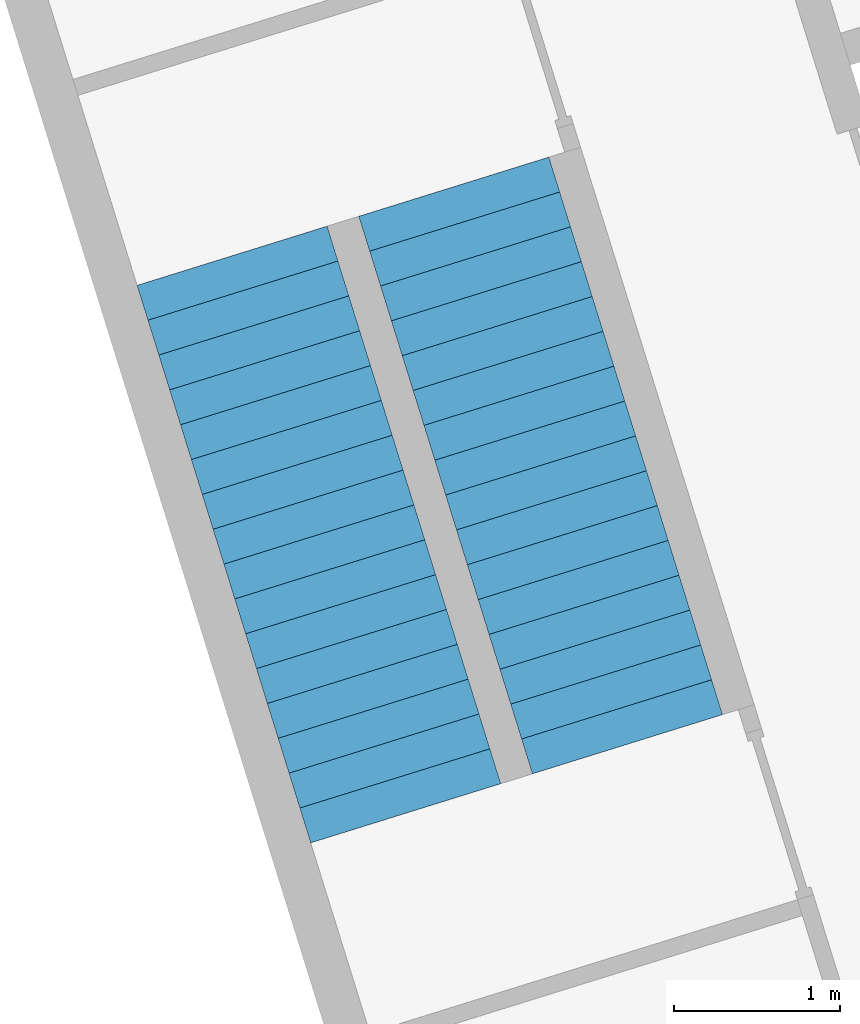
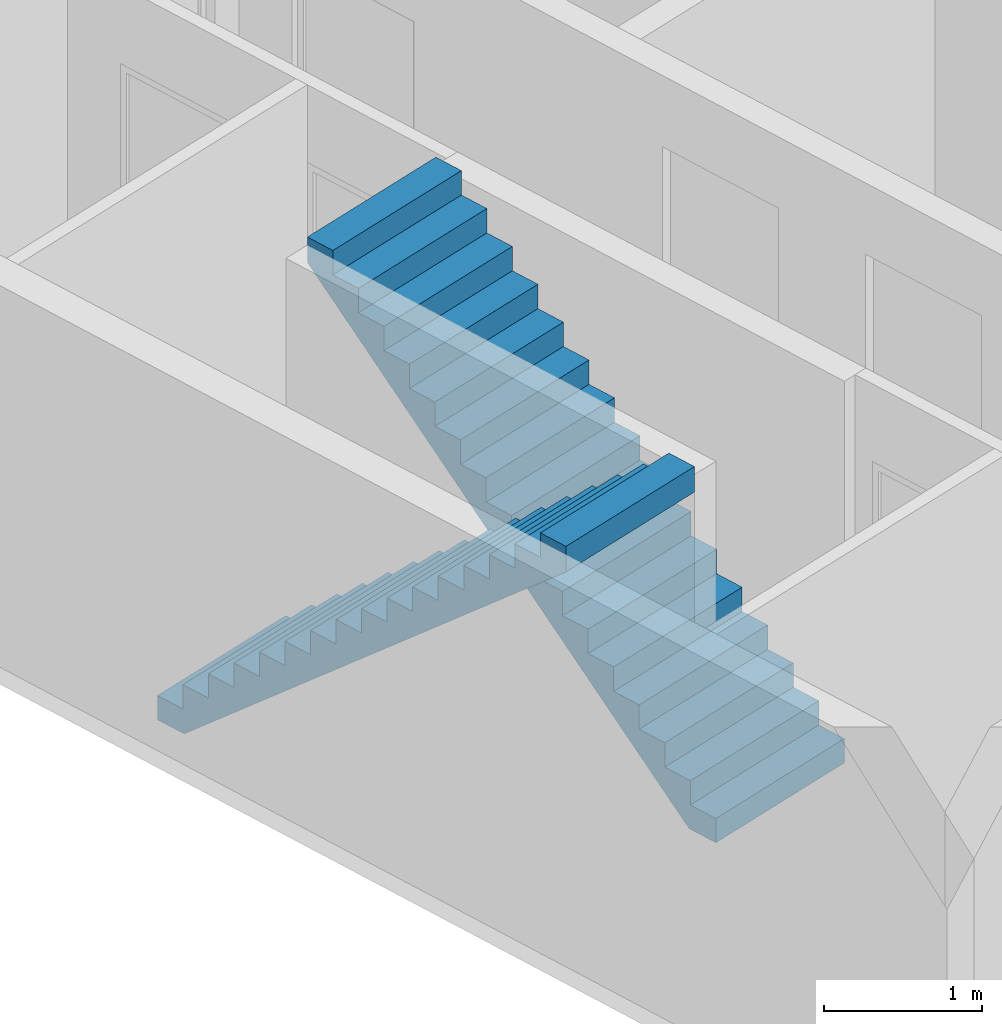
# One storey, part 3 of 3: 2 stair flights, 2 elements without a shape of their own.
"""IFC4 building model written with IfcOpenShell, lengths in metres."""

from ifc_helpers import new_model, entity, si_unit, converted_unit, direction, frame, origin, place, context, subcontext, project, spatial, polygons, material, type_object, element, aggregate, save


model = new_model("IFC4")

# Units and contexts
model_context = context("Model", 3, precision=1e-05, world=origin(), true_north=direction((6.12323399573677e-17, 1.0)))
body_context = subcontext(model_context, "Body", "Model", "MODEL_VIEW")
ifc_project = project(units=[si_unit("LENGTHUNIT", "METRE"), si_unit("AREAUNIT", "SQUARE_METRE"), converted_unit("PLANEANGLEUNIT", "DEGREE", entity("IfcPlaneAngleMeasure", 0.0174532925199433), si_unit("PLANEANGLEUNIT", "RADIAN"), dimensions=[0, 0, 0, 0, 0, 0, 0]), si_unit("VOLUMEUNIT", "CUBIC_METRE")], contexts=[model_context])

# Site, building, storey
site_placement = place(None, frame((13.1347999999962, 11.9886000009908, 0.0), z_axis=(0.0, 0.0, 1.0), x_axis=(0.954770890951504, 0.297342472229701, 0.0)))
site = spatial("IfcSite", under=ifc_project, at=site_placement, Name="Schiehaven", CompositionType="ELEMENT")
building_placement = place(site_placement, origin())
building = spatial("IfcBuilding", under=site, at=building_placement, Name="VORM huis", CompositionType="ELEMENT")
storey_placement = place(building_placement, frame((0.0, 0.0, -3.2)))
storey = spatial("IfcBuildingStorey", under=building, at=storey_placement, Name="-1 kelder", CompositionType="ELEMENT", Elevation=-3.2)

# Stair, stair flight
stair_type = type_object("IfcStairType", Name="Trap", PredefinedType="STRAIGHT_RUN_STAIR")
stair_1_placement = place(storey_placement, origin())
stair_1 = element("IfcStair", 1, at=stair_1_placement, inside=storey, type_object=stair_type, Name="Hoofdtrap", ObjectType="Precast Stair:NLRS_24_STR_reguliere trap-woonfunctie-breedte 1200mm_gen", PredefinedType="STRAIGHT_RUN_STAIR")
ifc_material = material(Name="beton_gewapend_prefab-element", Category="Miscellaneous")
stair_flight_type = type_object("IfcStairFlightType", Name="Monolithic Run:NLRS_24_STRR_trap-beton prefab-monolithisch-recht_gen_rsf", PredefinedType="STRAIGHT")
stair_flight_1_placement = place(stair_1_placement, frame((66.525, 15.2899999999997, 0.0)))
stair_flight_1 = element("IfcStairFlight", 2, at=stair_flight_1_placement, type_object=stair_flight_type, material=ifc_material, Name="Hoofdtrap Run 1", ObjectType="Monolithic Run:NLRS_24_STRR_trap-beton prefab-monolithisch-recht_gen_rsf", PredefinedType="STRAIGHT", context=body_context, shape_type="Tessellation", body=[
    polygons([(1.4210854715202e-14, 0.220000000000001, 0.188235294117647), (1.4210854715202e-14, 0.0, 0.188235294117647), (1.20000000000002, 0.0, 0.188235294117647), (1.20000000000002, 0.220000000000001, 0.188235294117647), (1.4210854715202e-14, 0.219999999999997, 0.0), (1.4210854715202e-14, 0.0, 0.0), (1.20000000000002, 0.0, 0.0), (1.20000000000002, 0.219999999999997, 0.0), (1.4210854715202e-14, 0.44000000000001, 0.376470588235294), (1.4210854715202e-14, 0.219999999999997, 0.376470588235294), (1.20000000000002, 0.219999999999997, 0.376470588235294), (1.20000000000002, 0.44000000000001, 0.376470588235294), (1.4210854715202e-14, 0.440000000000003, 0.179057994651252), (1.4210854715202e-14, 0.230725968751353, 0.0), (1.20000000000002, 0.230725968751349, 0.0), (1.20000000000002, 0.440000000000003, 0.179057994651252), (1.4210854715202e-14, 0.660000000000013, 0.564705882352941), (1.4210854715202e-14, 0.440000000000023, 0.564705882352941), (1.20000000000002, 0.440000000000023, 0.564705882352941), (1.20000000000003, 0.660000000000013, 0.564705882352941), (1.4210854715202e-14, 0.660000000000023, 0.367293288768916), (1.20000000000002, 0.660000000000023, 0.367293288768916), (1.4210854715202e-14, 0.880000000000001, 0.752941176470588), (1.4210854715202e-14, 0.66, 0.752941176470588), (1.20000000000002, 0.66, 0.752941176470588), (1.20000000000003, 0.880000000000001, 0.752941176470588), (1.4210854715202e-14, 0.880000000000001, 0.555528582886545), (1.20000000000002, 0.880000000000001, 0.555528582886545), (1.4210854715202e-14, 1.1, 0.941176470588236), (1.4210854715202e-14, 0.880000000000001, 0.941176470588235), (1.20000000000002, 0.880000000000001, 0.941176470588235), (1.20000000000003, 1.1, 0.941176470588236), (1.4210854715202e-14, 1.1, 0.743763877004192), (1.20000000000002, 1.1, 0.743763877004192), (1.4210854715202e-14, 1.32, 1.12941176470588), (1.4210854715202e-14, 1.1, 1.12941176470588), (1.20000000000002, 1.1, 1.12941176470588), (1.20000000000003, 1.32, 1.12941176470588), (1.4210854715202e-14, 1.32, 0.93199917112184), (1.20000000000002, 1.32, 0.93199917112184), (1.4210854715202e-14, 1.54000000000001, 1.31764705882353), (1.4210854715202e-14, 1.32, 1.31764705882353), (1.20000000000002, 1.32, 1.31764705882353), (1.20000000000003, 1.54000000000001, 1.31764705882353), (2.8421709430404e-14, 1.54, 1.12023446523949), (1.20000000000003, 1.54, 1.12023446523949), (2.8421709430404e-14, 1.76000000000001, 1.50588235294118), (2.8421709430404e-14, 1.54000000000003, 1.50588235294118), (1.20000000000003, 1.54000000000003, 1.50588235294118), (1.20000000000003, 1.76000000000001, 1.50588235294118), (2.8421709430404e-14, 1.76000000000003, 1.30846975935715), (1.20000000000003, 1.76000000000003, 1.30846975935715), (2.8421709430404e-14, 1.98, 1.69411764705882), (2.8421709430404e-14, 1.76, 1.69411764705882), (1.20000000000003, 1.76, 1.69411764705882), (1.20000000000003, 1.98, 1.69411764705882), (2.8421709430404e-14, 1.98, 1.49670505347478), (1.20000000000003, 1.98, 1.49670505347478), (2.8421709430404e-14, 2.2, 1.88235294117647), (2.8421709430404e-14, 1.98, 1.88235294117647), (1.20000000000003, 1.98, 1.88235294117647), (1.20000000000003, 2.2, 1.88235294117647), (2.8421709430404e-14, 2.2, 1.68494034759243), (1.20000000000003, 2.2, 1.68494034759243), (2.8421709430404e-14, 2.42, 2.07058823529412), (2.8421709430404e-14, 2.2, 2.07058823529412), (1.20000000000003, 2.2, 2.07058823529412), (1.20000000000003, 2.42, 2.07058823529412), (2.8421709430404e-14, 2.42, 1.87317564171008), (1.20000000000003, 2.42, 1.87317564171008), (2.8421709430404e-14, 2.64000000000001, 2.25882352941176), (2.8421709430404e-14, 2.42, 2.25882352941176), (1.20000000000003, 2.42, 2.25882352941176), (1.20000000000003, 2.64000000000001, 2.25882352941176), (2.8421709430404e-14, 2.64, 2.06141093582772), (1.20000000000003, 2.64, 2.06141093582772), (2.8421709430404e-14, 2.86000000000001, 2.44705882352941), (2.8421709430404e-14, 2.64000000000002, 2.44705882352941), (1.20000000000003, 2.64000000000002, 2.44705882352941), (1.20000000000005, 2.86000000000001, 2.44705882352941), (4.2632564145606e-14, 2.86000000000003, 2.24964622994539), (1.20000000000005, 2.86000000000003, 2.24964622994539), (4.2632564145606e-14, 3.08, 2.63529411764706), (4.2632564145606e-14, 2.86, 2.63529411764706), (1.20000000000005, 2.86, 2.63529411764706), (1.20000000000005, 3.08, 2.63529411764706), (4.2632564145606e-14, 3.08, 2.43788152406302), (1.20000000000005, 3.08, 2.43788152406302), (4.2632564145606e-14, 3.3, 2.82352941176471), (4.2632564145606e-14, 3.08, 2.82352941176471), (1.20000000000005, 3.08, 2.82352941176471), (1.20000000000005, 3.3, 2.82352941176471), (4.2632564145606e-14, 3.3, 2.62611681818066), (1.20000000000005, 3.3, 2.62611681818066), (4.2632564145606e-14, 3.52, 3.01176470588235), (4.2632564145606e-14, 3.3, 3.01176470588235), (1.20000000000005, 3.3, 3.01176470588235), (1.20000000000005, 3.52, 3.01176470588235), (4.2632564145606e-14, 3.52, 2.81435211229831), (1.20000000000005, 3.52, 2.81435211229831)], [[[1, 2, 3, 4]], [[2, 1, 5, 6]], [[3, 2, 6, 7]], [[4, 3, 7, 8]], [[9, 10, 11, 12]], [[5, 1, 10, 9, 13, 14]], [[1, 4, 11, 10]], [[4, 8, 15, 16, 12, 11]], [[17, 18, 19, 20]], [[18, 17, 21, 13, 9]], [[9, 12, 19, 18]], [[20, 19, 12, 16, 22]], [[23, 24, 25, 26]], [[24, 23, 27, 21, 17]], [[17, 20, 25, 24]], [[26, 25, 20, 22, 28]], [[29, 30, 31, 32]], [[30, 29, 33, 27, 23]], [[23, 26, 31, 30]], [[32, 31, 26, 28, 34]], [[35, 36, 37, 38]], [[36, 35, 39, 33, 29]], [[29, 32, 37, 36]], [[38, 37, 32, 34, 40]], [[41, 42, 43, 44]], [[42, 41, 45, 39, 35]], [[35, 38, 43, 42]], [[44, 43, 38, 40, 46]], [[47, 48, 49, 50]], [[48, 47, 51, 45, 41]], [[41, 44, 49, 48]], [[50, 49, 44, 46, 52]], [[53, 54, 55, 56]], [[54, 53, 57, 51, 47]], [[47, 50, 55, 54]], [[56, 55, 50, 52, 58]], [[59, 60, 61, 62]], [[60, 59, 63, 57, 53]], [[53, 56, 61, 60]], [[62, 61, 56, 58, 64]], [[65, 66, 67, 68]], [[66, 65, 69, 63, 59]], [[59, 62, 67, 66]], [[68, 67, 62, 64, 70]], [[71, 72, 73, 74]], [[72, 71, 75, 69, 65]], [[65, 68, 73, 72]], [[74, 73, 68, 70, 76]], [[77, 78, 79, 80]], [[78, 77, 81, 75, 71]], [[71, 74, 79, 78]], [[80, 79, 74, 76, 82]], [[83, 84, 85, 86]], [[84, 83, 87, 81, 77]], [[77, 80, 85, 84]], [[86, 85, 80, 82, 88]], [[89, 90, 91, 92]], [[90, 89, 93, 87, 83]], [[83, 86, 91, 90]], [[92, 91, 86, 88, 94]], [[95, 96, 97, 98]], [[96, 95, 99, 93, 89]], [[89, 92, 97, 96]], [[98, 97, 92, 94, 100]], [[95, 98, 100, 99]], [[6, 5, 14, 15, 8, 7]], [[15, 14, 13, 21, 27, 33, 39, 45, 51, 57, 63, 69, 75, 81, 87, 93, 99, 100, 94, 88, 82, 76, 70, 64, 58, 52, 46, 40, 34, 28, 22, 16]]], closed=True),
])
aggregate(stair_1, [stair_flight_1])

stair_2_placement = place(storey_placement, origin())
stair_2 = element("IfcStair", 3, at=stair_2_placement, inside=storey, type_object=stair_type, Name="Hoofdtrap", ObjectType="Precast Stair:NLRS_24_STR_reguliere trap-woonfunctie-breedte 1200mm_gen", PredefinedType="STRAIGHT_RUN_STAIR")
stair_flight_2_placement = place(stair_2_placement, frame((65.1250000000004, 15.2899999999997, 0.0)))
stair_flight_2 = element("IfcStairFlight", 4, at=stair_flight_2_placement, type_object=stair_flight_type, material=ifc_material, Name="Hoofdtrap Run 1", ObjectType="Monolithic Run:NLRS_24_STRR_trap-beton prefab-monolithisch-recht_gen_rsf", PredefinedType="STRAIGHT", context=body_context, shape_type="Tessellation", body=[
    polygons([(1.20000000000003, 3.3, 0.188235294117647), (1.20000000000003, 3.52, 0.188235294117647), (2.8421709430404e-14, 3.52, 0.188235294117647), (2.8421709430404e-14, 3.3, 0.188235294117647), (1.20000000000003, 3.3, 0.0), (1.20000000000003, 3.52, 0.0), (2.8421709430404e-14, 3.52, 0.0), (2.8421709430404e-14, 3.3, 0.0), (1.20000000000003, 3.07999999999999, 0.376470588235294), (1.20000000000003, 3.3, 0.376470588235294), (2.8421709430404e-14, 3.3, 0.376470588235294), (2.8421709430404e-14, 3.07999999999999, 0.376470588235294), (1.20000000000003, 3.08, 0.179057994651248), (1.20000000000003, 3.28927403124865, -4.44089209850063e-16), (2.8421709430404e-14, 3.28927403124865, -4.44089209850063e-16), (2.8421709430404e-14, 3.08, 0.179057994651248), (1.20000000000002, 2.85999999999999, 0.564705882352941), (1.20000000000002, 3.07999999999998, 0.564705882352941), (1.4210854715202e-14, 3.07999999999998, 0.564705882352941), (1.4210854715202e-14, 2.85999999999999, 0.564705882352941), (1.20000000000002, 2.85999999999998, 0.367293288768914), (1.4210854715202e-14, 2.85999999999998, 0.367293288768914), (1.20000000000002, 2.64, 0.752941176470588), (1.20000000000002, 2.86, 0.752941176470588), (1.4210854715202e-14, 2.86, 0.752941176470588), (1.4210854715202e-14, 2.64, 0.752941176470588), (1.20000000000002, 2.64, 0.555528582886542), (1.4210854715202e-14, 2.64, 0.555528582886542), (1.20000000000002, 2.42, 0.941176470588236), (1.20000000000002, 2.64, 0.941176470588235), (1.4210854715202e-14, 2.64, 0.941176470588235), (1.4210854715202e-14, 2.42, 0.941176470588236), (1.20000000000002, 2.42000000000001, 0.743763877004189), (1.4210854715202e-14, 2.42000000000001, 0.743763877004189), (1.20000000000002, 2.2, 1.12941176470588), (1.20000000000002, 2.42, 1.12941176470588), (1.4210854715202e-14, 2.42, 1.12941176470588), (1.4210854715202e-14, 2.2, 1.12941176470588), (1.20000000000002, 2.2, 0.931999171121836), (1.4210854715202e-14, 2.2, 0.931999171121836), (1.20000000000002, 1.97999999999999, 1.31764705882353), (1.20000000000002, 2.2, 1.31764705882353), (1.4210854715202e-14, 2.2, 1.31764705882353), (1.4210854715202e-14, 1.97999999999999, 1.31764705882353), (1.20000000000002, 1.98, 1.12023446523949), (1.4210854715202e-14, 1.98, 1.12023446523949), (1.20000000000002, 1.75999999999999, 1.50588235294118), (1.20000000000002, 1.97999999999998, 1.50588235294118), (1.4210854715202e-14, 1.97999999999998, 1.50588235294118), (1.4210854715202e-14, 1.75999999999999, 1.50588235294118), (1.20000000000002, 1.75999999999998, 1.30846975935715), (1.4210854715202e-14, 1.75999999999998, 1.30846975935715), (1.20000000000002, 1.54, 1.69411764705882), (1.20000000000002, 1.76, 1.69411764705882), (1.4210854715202e-14, 1.76, 1.69411764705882), (1.4210854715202e-14, 1.54, 1.69411764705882), (1.20000000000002, 1.54, 1.49670505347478), (1.4210854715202e-14, 1.54, 1.49670505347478), (1.20000000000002, 1.32, 1.88235294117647), (1.20000000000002, 1.54, 1.88235294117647), (1.4210854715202e-14, 1.54, 1.88235294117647), (1.4210854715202e-14, 1.32, 1.88235294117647), (1.20000000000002, 1.32, 1.68494034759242), (1.4210854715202e-14, 1.32, 1.68494034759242), (1.20000000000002, 1.1, 2.07058823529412), (1.20000000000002, 1.32, 2.07058823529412), (1.4210854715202e-14, 1.32, 2.07058823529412), (1.4210854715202e-14, 1.1, 2.07058823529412), (1.20000000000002, 1.1, 1.87317564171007), (1.4210854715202e-14, 1.1, 1.87317564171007), (1.20000000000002, 0.879999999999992, 2.25882352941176), (1.20000000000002, 1.1, 2.25882352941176), (1.4210854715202e-14, 1.1, 2.25882352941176), (1.4210854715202e-14, 0.879999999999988, 2.25882352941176), (1.20000000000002, 0.880000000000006, 2.06141093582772), (1.4210854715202e-14, 0.880000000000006, 2.06141093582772), (1.20000000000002, 0.659999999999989, 2.44705882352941), (1.20000000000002, 0.879999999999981, 2.44705882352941), (1.4210854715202e-14, 0.879999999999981, 2.44705882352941), (1.4210854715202e-14, 0.659999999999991, 2.44705882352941), (1.20000000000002, 0.659999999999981, 2.24964622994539), (1.4210854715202e-14, 0.659999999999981, 2.24964622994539), (1.2, 0.440000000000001, 2.63529411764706), (1.2, 0.66, 2.63529411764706), (0.0, 0.66, 2.63529411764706), (0.0, 0.440000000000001, 2.63529411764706), (1.2, 0.440000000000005, 2.43788152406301), (0.0, 0.440000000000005, 2.43788152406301), (1.2, 0.220000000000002, 2.82352941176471), (1.2, 0.440000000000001, 2.82352941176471), (0.0, 0.440000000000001, 2.82352941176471), (0.0, 0.220000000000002, 2.82352941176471), (1.2, 0.220000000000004, 2.62611681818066), (0.0, 0.220000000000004, 2.62611681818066), (1.2, 0.0, 3.01176470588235), (1.2, 0.220000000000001, 3.01176470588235), (0.0, 0.220000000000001, 3.01176470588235), (0.0, 0.0, 3.01176470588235), (1.2, 0.0, 2.81435211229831), (0.0, 0.0, 2.81435211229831)], [[[1, 2, 3, 4]], [[2, 1, 5, 6]], [[3, 2, 6, 7]], [[4, 3, 7, 8]], [[9, 10, 11, 12]], [[5, 1, 10, 9, 13, 14]], [[1, 4, 11, 10]], [[4, 8, 15, 16, 12, 11]], [[17, 18, 19, 20]], [[18, 17, 21, 13, 9]], [[9, 12, 19, 18]], [[20, 19, 12, 16, 22]], [[23, 24, 25, 26]], [[24, 23, 27, 21, 17]], [[17, 20, 25, 24]], [[26, 25, 20, 22, 28]], [[29, 30, 31, 32]], [[30, 29, 33, 27, 23]], [[23, 26, 31, 30]], [[32, 31, 26, 28, 34]], [[35, 36, 37, 38]], [[36, 35, 39, 33, 29]], [[29, 32, 37, 36]], [[38, 37, 32, 34, 40]], [[41, 42, 43, 44]], [[42, 41, 45, 39, 35]], [[35, 38, 43, 42]], [[44, 43, 38, 40, 46]], [[47, 48, 49, 50]], [[48, 47, 51, 45, 41]], [[41, 44, 49, 48]], [[50, 49, 44, 46, 52]], [[53, 54, 55, 56]], [[54, 53, 57, 51, 47]], [[47, 50, 55, 54]], [[56, 55, 50, 52, 58]], [[59, 60, 61, 62]], [[60, 59, 63, 57, 53]], [[53, 56, 61, 60]], [[62, 61, 56, 58, 64]], [[65, 66, 67, 68]], [[66, 65, 69, 63, 59]], [[59, 62, 67, 66]], [[68, 67, 62, 64, 70]], [[71, 72, 73, 74]], [[72, 71, 75, 69, 65]], [[65, 68, 73, 72]], [[74, 73, 68, 70, 76]], [[77, 78, 79, 80]], [[78, 77, 81, 75, 71]], [[71, 74, 79, 78]], [[80, 79, 74, 76, 82]], [[83, 84, 85, 86]], [[84, 83, 87, 81, 77]], [[77, 80, 85, 84]], [[86, 85, 80, 82, 88]], [[89, 90, 91, 92]], [[90, 89, 93, 87, 83]], [[83, 86, 91, 90]], [[92, 91, 86, 88, 94]], [[95, 96, 97, 98]], [[96, 95, 99, 93, 89]], [[89, 92, 97, 96]], [[98, 97, 92, 94, 100]], [[95, 98, 100, 99]], [[6, 5, 14, 15, 8, 7]], [[15, 14, 13, 21, 27, 33, 39, 45, 51, 57, 63, 69, 75, 81, 87, 93, 99, 100, 94, 88, 82, 76, 70, 64, 58, 52, 46, 40, 34, 28, 22, 16]]], closed=True),
])
aggregate(stair_2, [stair_flight_2])

save(model, "model.ifc")
